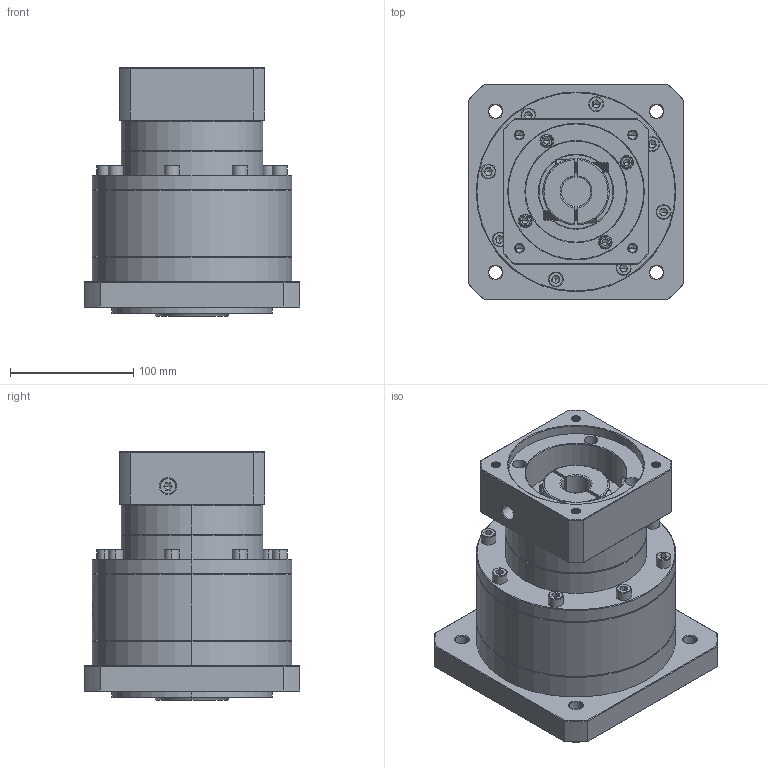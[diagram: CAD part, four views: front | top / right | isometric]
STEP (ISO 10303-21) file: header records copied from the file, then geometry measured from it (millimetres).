
FILE_DESCRIPTION (( 'STEP AP214' ), '1' );
FILE_NAME ('ZF160A-K35-L2-P2-24-110-130-M8.step', '2023-09-03T07:58:02', ( '' ), ( '' ), 'SwSTEP 2.0', 'SolidWorks 2016', '' );
FILE_SCHEMA (( 'AUTOMOTIVE_DESIGN' ));
Length unit declared in the file: millimetre
Products named in the file (1): ZF160A-K35-L2-P2-24-110-130-M8
Bounding box: 175 x 175 x 201.7 mm (x, y, z)
Volume: 3207847.3 mm3; surface area: 255185.9 mm2
Topology: 6 solids, 6 shells, 2367 faces, 6237 edges, 3996 vertices
Faces by surface type: plane 1112, cylinder 450, bspline 398, cone 351, torus 56
Entity records: 125080 total; most frequent: CARTESIAN_POINT 45530, ORIENTED_EDGE 12370, DIRECTION 9438, EDGE_CURVE 6185, VERTEX_POINT 3996, VECTOR 3314, LINE 3314, AXIS2_PLACEMENT_3D 3062
